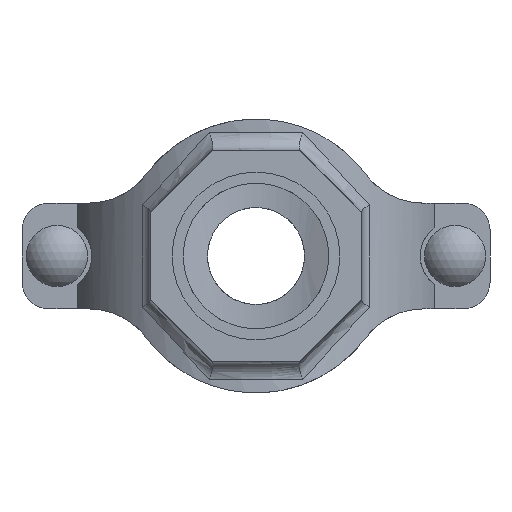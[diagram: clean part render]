
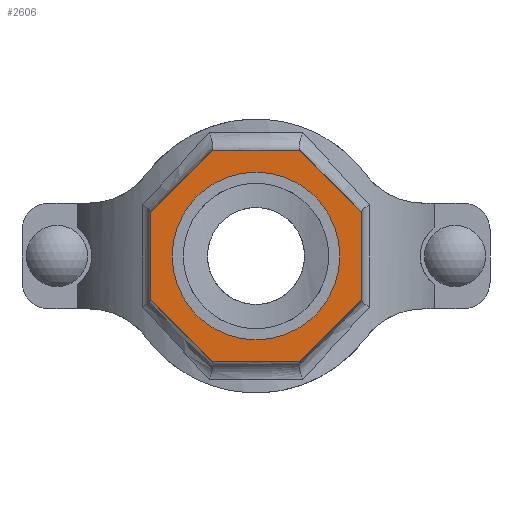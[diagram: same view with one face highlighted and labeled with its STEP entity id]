
A CAD part, front view. The second image highlights one B-rep face of the part: STEP entity #2606.
In plain terms, the highlighted planar face has unit normal (0, -1, 0) as drawn and (0, 1, 0) by its records, which use the part's own axes.
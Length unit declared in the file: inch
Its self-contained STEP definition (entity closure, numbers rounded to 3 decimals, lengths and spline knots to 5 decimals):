
#200=FACE_BOUND('',#476,.T.);
#322=FACE_OUTER_BOUND('',#475,.T.);
#475=EDGE_LOOP('',(#2191,#2192,#2193,#2194,#2195,#2196,#2197,#2198));
#476=EDGE_LOOP('',(#2199));
#613=LINE('',#4898,#799);
#616=LINE('',#4903,#802);
#618=LINE('',#4907,#804);
#620=LINE('',#4911,#806);
#656=LINE('',#5368,#842);
#658=LINE('',#5372,#844);
#660=LINE('',#5376,#846);
#662=LINE('',#5379,#848);
#799=VECTOR('',#3356,0.3937);
#802=VECTOR('',#3361,0.3937);
#804=VECTOR('',#3365,0.3937);
#806=VECTOR('',#3369,0.3937);
#842=VECTOR('',#3497,0.3937);
#844=VECTOR('',#3501,0.3937);
#846=VECTOR('',#3505,0.3937);
#848=VECTOR('',#3509,0.3937);
#938=CIRCLE('',#2874,1.1875);
#1124=VERTEX_POINT('',#4895);
#1125=VERTEX_POINT('',#4897);
#1126=VERTEX_POINT('',#4901);
#1127=VERTEX_POINT('',#4905);
#1128=VERTEX_POINT('',#4909);
#1163=VERTEX_POINT('',#5197);
#1185=VERTEX_POINT('',#5367);
#1186=VERTEX_POINT('',#5371);
#1187=VERTEX_POINT('',#5375);
#1447=EDGE_CURVE('',#1125,#1124,#613,.T.);
#1450=EDGE_CURVE('',#1124,#1126,#616,.T.);
#1452=EDGE_CURVE('',#1126,#1127,#618,.T.);
#1454=EDGE_CURVE('',#1127,#1128,#620,.T.);
#1500=EDGE_CURVE('',#1163,#1163,#938,.T.);
#1530=EDGE_CURVE('',#1185,#1125,#656,.T.);
#1532=EDGE_CURVE('',#1186,#1185,#658,.T.);
#1534=EDGE_CURVE('',#1187,#1186,#660,.T.);
#1536=EDGE_CURVE('',#1128,#1187,#662,.T.);
#2191=ORIENTED_EDGE('',*,*,#1536,.T.);
#2192=ORIENTED_EDGE('',*,*,#1534,.T.);
#2193=ORIENTED_EDGE('',*,*,#1532,.T.);
#2194=ORIENTED_EDGE('',*,*,#1530,.T.);
#2195=ORIENTED_EDGE('',*,*,#1447,.T.);
#2196=ORIENTED_EDGE('',*,*,#1450,.T.);
#2197=ORIENTED_EDGE('',*,*,#1452,.T.);
#2198=ORIENTED_EDGE('',*,*,#1454,.T.);
#2199=ORIENTED_EDGE('',*,*,#1500,.T.);
#2341=PLANE('',#2895);
#2606=ADVANCED_FACE('',(#322,#200),#2341,.T.);
#2874=AXIS2_PLACEMENT_3D('',#5198,#3447,#3448);
#2895=AXIS2_PLACEMENT_3D('',#5380,#3510,#3511);
#3356=DIRECTION('',(0.,0.,1.));
#3361=DIRECTION('',(0.707,0.,0.707));
#3365=DIRECTION('',(1.,0.,0.));
#3369=DIRECTION('',(0.707,0.,-0.707));
#3447=DIRECTION('center_axis',(0.,-1.,0.));
#3448=DIRECTION('ref_axis',(-1.,0.,0.));
#3497=DIRECTION('',(-0.707,0.,0.707));
#3501=DIRECTION('',(-1.,0.,0.));
#3505=DIRECTION('',(-0.707,0.,-0.707));
#3509=DIRECTION('',(0.,0.,-1.));
#3510=DIRECTION('center_axis',(0.,1.,0.));
#3511=DIRECTION('ref_axis',(0.,0.,1.));
#4895=CARTESIAN_POINT('',(-1.5,4.,0.62132));
#4897=CARTESIAN_POINT('',(-1.5,4.,-0.62132));
#4898=CARTESIAN_POINT('',(-1.5,4.,0.62132));
#4901=CARTESIAN_POINT('',(-0.62132,4.,1.5));
#4903=CARTESIAN_POINT('',(-0.62132,4.,1.5));
#4905=CARTESIAN_POINT('',(0.62132,4.,1.5));
#4907=CARTESIAN_POINT('',(0.62132,4.,1.5));
#4909=CARTESIAN_POINT('',(1.5,4.,0.62132));
#4911=CARTESIAN_POINT('',(1.5,4.,0.62132));
#5197=CARTESIAN_POINT('',(1.1875,4.,0.));
#5198=CARTESIAN_POINT('Origin',(0.,4.,0.));
#5367=CARTESIAN_POINT('',(-0.62132,4.,-1.5));
#5368=CARTESIAN_POINT('',(-1.5,4.,-0.62132));
#5371=CARTESIAN_POINT('',(0.62132,4.,-1.5));
#5372=CARTESIAN_POINT('',(-0.62132,4.,-1.5));
#5375=CARTESIAN_POINT('',(1.5,4.,-0.62132));
#5376=CARTESIAN_POINT('',(0.62132,4.,-1.5));
#5379=CARTESIAN_POINT('',(1.5,4.,-0.62132));
#5380=CARTESIAN_POINT('Origin',(0.,4.,0.));
